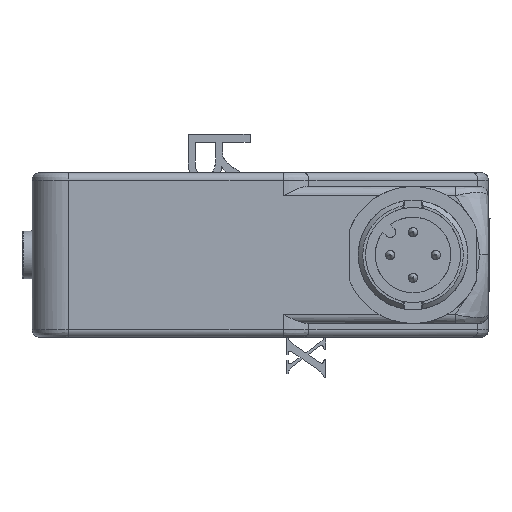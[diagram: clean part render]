
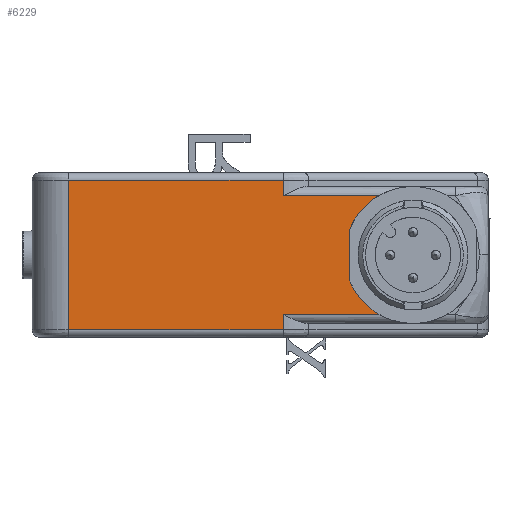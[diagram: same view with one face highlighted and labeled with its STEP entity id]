
A CAD part, left-side view. The second image highlights one B-rep face of the part: STEP entity #6229.
In plain terms, the highlighted planar face has unit normal (-1, 0, 0).
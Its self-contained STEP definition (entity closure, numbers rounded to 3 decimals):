
#5151=B_SPLINE_CURVE_WITH_KNOTS('',3,(#19440,#19441,#19442,#19443),.UNSPECIFIED.,
 .F.,.F.,(4,4),(0.,1.),.UNSPECIFIED.);
#5267=B_SPLINE_CURVE_WITH_KNOTS('',3,(#24721,#24722,#24723,#24724),.UNSPECIFIED.,
 .F.,.F.,(4,4),(0.,1.),.UNSPECIFIED.);
#5268=B_SPLINE_CURVE_WITH_KNOTS('',3,(#24726,#24727,#24728,#24729),.UNSPECIFIED.,
 .F.,.F.,(4,4),(0.,1.),.UNSPECIFIED.);
#5269=B_SPLINE_CURVE_WITH_KNOTS('',3,(#24731,#24732,#24733,#24734),.UNSPECIFIED.,
 .F.,.F.,(4,4),(0.,1.),.UNSPECIFIED.);
#5270=B_SPLINE_CURVE_WITH_KNOTS('',3,(#24736,#24737,#24738,#24739,#24740,
#24741,#24742,#24743,#24744,#24745,#24746,#24747,#24748,#24749,#24750),.UNSPECIFIED.,
 .F.,.F.,(4,2,2,2,1,2,2,4),(0.,0.25,0.375,0.5,
0.625,0.688,0.75,1.),.UNSPECIFIED.);
#5271=B_SPLINE_CURVE_WITH_KNOTS('',3,(#24752,#24753,#24754,#24755),.UNSPECIFIED.,
 .F.,.F.,(4,4),(0.,1.),.UNSPECIFIED.);
#5272=B_SPLINE_CURVE_WITH_KNOTS('',3,(#24757,#24758,#24759,#24760,#24761,
#24762,#24763,#24764,#24765,#24766,#24767,#24768,#24769,#24770),.UNSPECIFIED.,
 .F.,.F.,(4,2,2,2,2,2,4),(0.,0.125,0.187,0.25,
0.375,0.5,1.),.UNSPECIFIED.);
#5273=B_SPLINE_CURVE_WITH_KNOTS('',3,(#24772,#24773,#24774,#24775),.UNSPECIFIED.,
 .F.,.F.,(4,4),(0.,1.),.UNSPECIFIED.);
#5274=B_SPLINE_CURVE_WITH_KNOTS('',3,(#24777,#24778,#24779,#24780),.UNSPECIFIED.,
 .F.,.F.,(4,4),(0.,1.),.UNSPECIFIED.);
#5275=B_SPLINE_CURVE_WITH_KNOTS('',3,(#24782,#24783,#24784,#24785),.UNSPECIFIED.,
 .F.,.F.,(4,4),(0.,1.),.UNSPECIFIED.);
#6229=ADVANCED_FACE('',(#7076),#6715,.T.);
#6715=PLANE('',#13787);
#7076=FACE_OUTER_BOUND('',#7660,.T.);
#7660=EDGE_LOOP('',(#9218,#9219,#9220,#9221,#9222,#9223,#9224,#9225,#9226,
#9227));
#9218=ORIENTED_EDGE('',*,*,#12421,.T.);
#9219=ORIENTED_EDGE('',*,*,#12422,.T.);
#9220=ORIENTED_EDGE('',*,*,#12423,.T.);
#9221=ORIENTED_EDGE('',*,*,#12424,.T.);
#9222=ORIENTED_EDGE('',*,*,#12425,.T.);
#9223=ORIENTED_EDGE('',*,*,#12426,.T.);
#9224=ORIENTED_EDGE('',*,*,#12427,.T.);
#9225=ORIENTED_EDGE('',*,*,#12428,.T.);
#9226=ORIENTED_EDGE('',*,*,#12429,.T.);
#9227=ORIENTED_EDGE('',*,*,#12285,.F.);
#11238=VERTEX_POINT('',#19439);
#11239=VERTEX_POINT('',#19444);
#11337=VERTEX_POINT('',#24725);
#11338=VERTEX_POINT('',#24730);
#11339=VERTEX_POINT('',#24735);
#11340=VERTEX_POINT('',#24751);
#11341=VERTEX_POINT('',#24756);
#11342=VERTEX_POINT('',#24771);
#11343=VERTEX_POINT('',#24776);
#11344=VERTEX_POINT('',#24781);
#12285=EDGE_CURVE('',#11238,#11239,#5151,.T.);
#12421=EDGE_CURVE('',#11238,#11337,#5267,.T.);
#12422=EDGE_CURVE('',#11337,#11338,#5268,.T.);
#12423=EDGE_CURVE('',#11338,#11339,#5269,.T.);
#12424=EDGE_CURVE('',#11339,#11340,#5270,.T.);
#12425=EDGE_CURVE('',#11340,#11341,#5271,.T.);
#12426=EDGE_CURVE('',#11341,#11342,#5272,.T.);
#12427=EDGE_CURVE('',#11342,#11343,#5273,.T.);
#12428=EDGE_CURVE('',#11343,#11344,#5274,.T.);
#12429=EDGE_CURVE('',#11344,#11239,#5275,.T.);
#13787=AXIS2_PLACEMENT_3D('',#24786,#14628,#14629);
#14628=DIRECTION('',(-1.,0.,0.));
#14629=DIRECTION('',(0.,1.,0.));
#19439=CARTESIAN_POINT('',(29.455,134.595,-8.4));
#19440=CARTESIAN_POINT('',(29.455,134.595,-8.4));
#19441=CARTESIAN_POINT('',(29.455,134.595,-2.933));
#19442=CARTESIAN_POINT('',(29.455,134.595,2.533));
#19443=CARTESIAN_POINT('',(29.455,134.595,8.));
#19444=CARTESIAN_POINT('',(29.455,134.595,8.));
#24721=CARTESIAN_POINT('',(29.455,134.595,-8.4));
#24722=CARTESIAN_POINT('',(29.455,126.756,-8.4));
#24723=CARTESIAN_POINT('',(29.455,118.918,-8.4));
#24724=CARTESIAN_POINT('',(29.455,111.08,-8.4));
#24725=CARTESIAN_POINT('',(29.455,111.08,-8.4));
#24726=CARTESIAN_POINT('',(29.455,111.08,-8.4));
#24727=CARTESIAN_POINT('',(29.455,111.08,-7.833));
#24728=CARTESIAN_POINT('',(29.455,111.08,-7.267));
#24729=CARTESIAN_POINT('',(29.455,111.08,-6.7));
#24730=CARTESIAN_POINT('',(29.455,111.08,-6.7));
#24731=CARTESIAN_POINT('',(29.455,111.08,-6.7));
#24732=CARTESIAN_POINT('',(29.455,107.583,-6.7));
#24733=CARTESIAN_POINT('',(29.455,104.086,-6.7));
#24734=CARTESIAN_POINT('',(29.455,100.589,-6.7));
#24735=CARTESIAN_POINT('',(29.455,100.589,-6.7));
#24736=CARTESIAN_POINT('',(29.455,100.589,-6.7));
#24737=CARTESIAN_POINT('',(29.455,100.971,-6.48));
#24738=CARTESIAN_POINT('',(29.455,101.331,-6.229));
#24739=CARTESIAN_POINT('',(29.455,101.83,-5.81));
#24740=CARTESIAN_POINT('',(29.455,101.99,-5.664));
#24741=CARTESIAN_POINT('',(29.455,102.297,-5.358));
#24742=CARTESIAN_POINT('',(29.455,102.447,-5.194));
#24743=CARTESIAN_POINT('',(29.455,102.72,-4.87));
#24744=CARTESIAN_POINT('',(29.455,102.915,-4.618));
#24745=CARTESIAN_POINT('',(29.455,103.092,-4.355));
#24746=CARTESIAN_POINT('',(29.455,103.207,-4.177));
#24747=CARTESIAN_POINT('',(29.455,103.265,-4.083));
#24748=CARTESIAN_POINT('',(29.455,103.523,-3.643));
#24749=CARTESIAN_POINT('',(29.455,103.7,-3.276));
#24750=CARTESIAN_POINT('',(29.455,103.848,-2.893));
#24751=CARTESIAN_POINT('',(29.455,103.848,-2.893));
#24752=CARTESIAN_POINT('',(29.455,103.848,-2.893));
#24753=CARTESIAN_POINT('',(29.455,103.848,-1.098));
#24754=CARTESIAN_POINT('',(29.455,103.848,0.698));
#24755=CARTESIAN_POINT('',(29.455,103.848,2.493));
#24756=CARTESIAN_POINT('',(29.455,103.848,2.493));
#24757=CARTESIAN_POINT('',(29.455,103.848,2.493));
#24758=CARTESIAN_POINT('',(29.455,103.774,2.684));
#24759=CARTESIAN_POINT('',(29.455,103.693,2.871));
#24760=CARTESIAN_POINT('',(29.455,103.561,3.146));
#24761=CARTESIAN_POINT('',(29.455,103.515,3.237));
#24762=CARTESIAN_POINT('',(29.455,103.419,3.418));
#24763=CARTESIAN_POINT('',(29.455,103.37,3.504));
#24764=CARTESIAN_POINT('',(29.455,103.209,3.778));
#24765=CARTESIAN_POINT('',(29.455,103.095,3.956));
#24766=CARTESIAN_POINT('',(29.455,102.85,4.302));
#24767=CARTESIAN_POINT('',(29.455,102.724,4.466));
#24768=CARTESIAN_POINT('',(29.455,102.024,5.297));
#24769=CARTESIAN_POINT('',(29.455,101.353,5.861));
#24770=CARTESIAN_POINT('',(29.455,100.589,6.3));
#24771=CARTESIAN_POINT('',(29.455,100.589,6.3));
#24772=CARTESIAN_POINT('',(29.455,100.589,6.3));
#24773=CARTESIAN_POINT('',(29.455,104.086,6.3));
#24774=CARTESIAN_POINT('',(29.455,107.583,6.3));
#24775=CARTESIAN_POINT('',(29.455,111.08,6.3));
#24776=CARTESIAN_POINT('',(29.455,111.08,6.3));
#24777=CARTESIAN_POINT('',(29.455,111.08,6.3));
#24778=CARTESIAN_POINT('',(29.455,111.08,6.867));
#24779=CARTESIAN_POINT('',(29.455,111.08,7.433));
#24780=CARTESIAN_POINT('',(29.455,111.08,8.));
#24781=CARTESIAN_POINT('',(29.455,111.08,8.));
#24782=CARTESIAN_POINT('',(29.455,111.08,8.));
#24783=CARTESIAN_POINT('',(29.455,118.918,8.));
#24784=CARTESIAN_POINT('',(29.455,126.756,8.));
#24785=CARTESIAN_POINT('',(29.455,134.595,8.));
#24786=CARTESIAN_POINT('',(29.455,86.65,9.));
